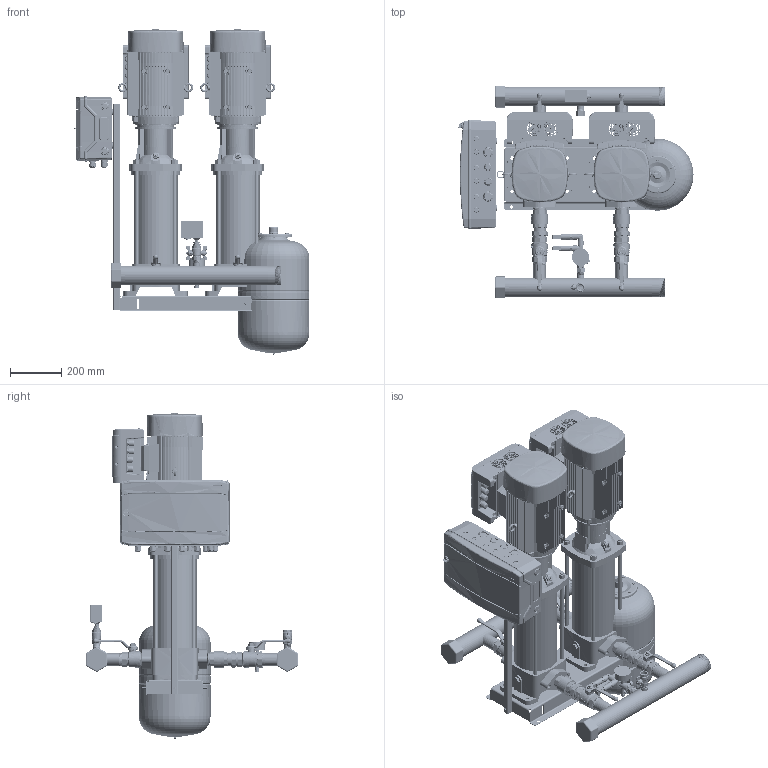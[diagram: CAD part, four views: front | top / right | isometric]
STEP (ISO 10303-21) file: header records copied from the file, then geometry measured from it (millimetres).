
FILE_DESCRIPTION(('CATIA V5 STEP Exchange','CAx-IF Rec.Pracs.--- Model Styling and Organization---1.4--- 2014-01-23','CAx-IF Rec.Pracs.---3D Tessellated Data Validation Properties---0.5---2014-09-14'),'2;1');
FILE_NAME('C:\Users\78432\YandexDisk\Drawings and 3D\3D Hydro Booster\Hydro-ME 3D\Hydro Models\Hydro ME 2 CRV10-xx\Hydro ME 2 CRVE10-12.stp','2023-09-20T10:19:29+00:00',('none'),('none'),'CATIA Version 5-6 Release 2019 SP6','CATIA V5 STEP AP242 v1','none');
FILE_SCHEMA(('AP242_MANAGED_MODEL_BASED_3D_ENGINEERING_MIM_LF {1 0 10303 442 1 1 4}'));
Length unit declared in the file: millimetre
Products named in the file (46): Hydro ME 2 CRVE10-12; 92051008; CRV10-12 Set; CRV 10-12_A_Oval_4kW; Base; Flange.1; Flange.2; Sleeve; Pumphead; Staybolt.1; Staybolt.2; Staybolt.3; Staybolt.4; Plug; AirVent; Motor; 92807544_9022-05; Hydraulica NY DN32 1,5 PN16; DN40_FM_LV_47.303.40; 92807557_9013-05; SAJ PDH30 4-7,5kW; 97941444; 405801; 405816; 91040267; 97941481; 00ID7527; Holder and CP 18mod; 92878909; Control ME (18mod); 2 sensors + manometer cpl.; manometr 16 bar; RPD-I-G1_2; 9021-01; 2070 1/2-1/2; _2020 1/2-1/2; 98594078; Tank 24L cpl.; DN20_FF_BF_47.300.20; WAV-24(D140 1'')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
Assembly tree (53 placements, depth 4):
  Hydro ME 2 CRVE10-12
    92051008
    CRV10-12 Set  x2
      CRV 10-12_A_Oval_4kW
        Base
        Flange.1
        Flange.2
        Sleeve
        Pumphead
        Staybolt.1
        Staybolt.2
        Staybolt.3
        Staybolt.4
        Plug
        AirVent
        Motor
      92807544_9022-05
      Hydraulica NY DN32 1,5 PN16
      DN40_FM_LV_47.303.40
      92807557_9013-05
      SAJ PDH30 4-7,5kW
    97941444  x2
      405801
      405816
      91040267
      97941481
    00ID7527  x2
    Holder and CP 18mod
      92878909
      Control ME (18mod)
    2 sensors + manometer cpl.
      manometr 16 bar
      RPD-I-G1_2  x2
      9021-01
      2070 1/2-1/2
      _2020 1/2-1/2
      98594078
    Tank 24L cpl.
      DN20_FF_BF_47.300.20
      9021-03
    Relay cpl.
      Relay RD-2R
      DN20_FF_BF_47.300.20
      2530 3/4-1/2
      _2530 1/2-1/4
    91078139
  WAV-24(D140 1'')
Bounding box: 916.82 x 829.22 x 1268.27 mm (x, y, z)
Volume: 88272943.7 mm3; surface area: 7807584.2 mm2
Topology: 182 solids, 212 shells, 27737 faces, 79992 edges, 53540 vertices
Faces by surface type: plane 11190, bspline 7376, cylinder 6737, cone 1655, torus 342, extrusion 260, sphere 177
Entity records: 683318 total; most frequent: CARTESIAN_POINT 345436, ORIENTED_EDGE 87361, EDGE_CURVE 44221, DIRECTION 39580, VERTEX_POINT 29560, VECTOR 18620, LINE 18555, B_SPLINE_CURVE_WITH_KNOTS 17785
